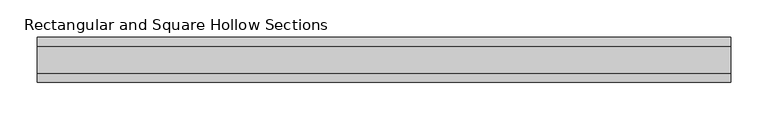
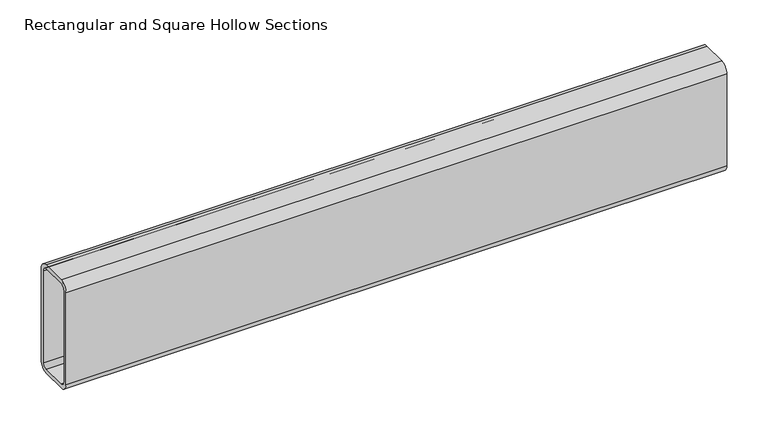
"""IFC4 building model written with IfcOpenShell, lengths in millimetres: beam geometry, Rectangular and Square Hollow Sections : TREC160x60x6."""

from ifc_helpers import new_model, si_unit, point, frame, frame_2d, origin, place, context, project, spatial, polyline, circle_curve, trimmed, segment, composite_curve, outline, extrude, source, transform, mapped, element, save


def rectangular_and_square_hollow_sections_cabbe5fd(model_context):
    return source(origin(), model_context, "Body", "SweptSolid", [
        extrude(outline(composite_curve([segment(polyline([(30.0, 68.0), (30.0, -68.0)]), True, "CONTINUOUS"), segment(trimmed(circle_curve(frame_2d((18.0, -68.0)), 12.0), [point((30.0, -68.0))], [point((18.0, -80.0))], False, "CARTESIAN"), True, "CONTINUOUS"), segment(polyline([(18.0, -80.0), (-18.0, -80.0)]), True, "CONTINUOUS"), segment(trimmed(circle_curve(frame_2d((-18.0, -68.0)), 12.0), [point((-18.0, -80.0))], [point((-30.0, -68.0))], False, "CARTESIAN"), True, "CONTINUOUS"), segment(polyline([(-30.0, -68.0), (-30.0, 68.0)]), True, "CONTINUOUS"), segment(trimmed(circle_curve(frame_2d((-18.0, 68.0)), 12.0), [point((-30.0, 68.0))], [point((-18.0, 80.0))], False, "CARTESIAN"), True, "CONTINUOUS"), segment(polyline([(-18.0, 80.0), (18.0, 80.0)]), True, "CONTINUOUS"), segment(trimmed(circle_curve(frame_2d((18.0, 68.0)), 12.0), [point((18.0, 80.0))], [point((30.0, 68.0))], False, "CARTESIAN"), True, "CONTINUOUS")], self_intersect=False), holes=[composite_curve([segment(trimmed(circle_curve(frame_2d((-18.0, 68.0)), 6.0), [point((-18.0, 74.0))], [point((-24.0, 68.0))], True, "CARTESIAN"), True, "CONTINUOUS"), segment(polyline([(-24.0, 68.0), (-24.0, -68.0)]), True, "CONTINUOUS"), segment(trimmed(circle_curve(frame_2d((-18.0, -68.0)), 6.0), [point((-24.0, -68.0))], [point((-18.0, -74.0))], True, "CARTESIAN"), True, "CONTINUOUS"), segment(polyline([(-18.0, -74.0), (18.0, -74.0)]), True, "CONTINUOUS"), segment(trimmed(circle_curve(frame_2d((18.0, -68.0)), 6.0), [point((18.0, -74.0))], [point((24.0, -68.0))], True, "CARTESIAN"), True, "CONTINUOUS"), segment(polyline([(24.0, -68.0), (24.0, 68.0)]), True, "CONTINUOUS"), segment(trimmed(circle_curve(frame_2d((18.0, 68.0)), 6.0), [point((24.0, 68.0))], [point((18.0, 74.0))], True, "CARTESIAN"), True, "CONTINUOUS"), segment(polyline([(18.0, 74.0), (-18.0, 74.0)]), True, "CONTINUOUS")], self_intersect=False)]), frame((-448.0, 0.0, 0.0), z_axis=(1.0, 0.0, 0.0), x_axis=(0.0, 1.0, 0.0)), (0.0, 0.0, 1.0), 925.0),
    ])


if __name__ == "__main__":
    model = new_model("IFC4")
    model_context = context("Model", 3, world=origin())
    ifc_project = project(units=[si_unit("LENGTHUNIT", "METRE", prefix="MILLI")], contexts=[model_context])
    site = spatial("IfcSite", under=ifc_project)
    building = spatial("IfcBuilding", under=site)
    placement = place(None, origin())
    rectangular_and_square_hollow_sections_shape = rectangular_and_square_hollow_sections_cabbe5fd(model_context)
    element("IfcBeam", 1, ObjectType="Rectangular and Square Hollow Sections : TREC160x60x6", at=placement, inside=building, context=model_context, shape_type="MappedRepresentation", body=[
        mapped(rectangular_and_square_hollow_sections_shape, transform((0.0, 0.0, 0.0), x_axis=(1.0, 0.0, 0.0), y_axis=(0.0, 1.0, 0.0), z_axis=(0.0, 0.0, 1.0))),
    ])
    save(model, "model.ifc")
